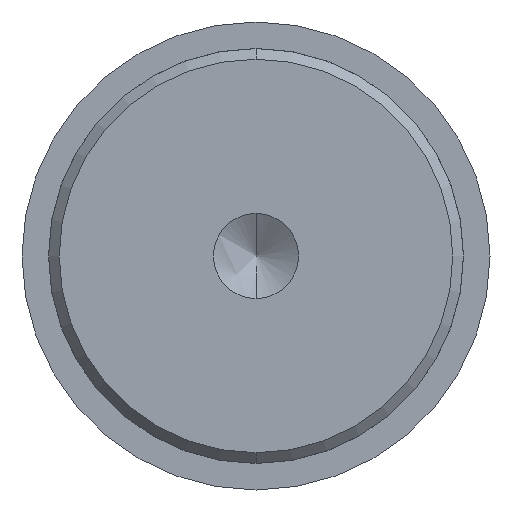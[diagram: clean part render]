
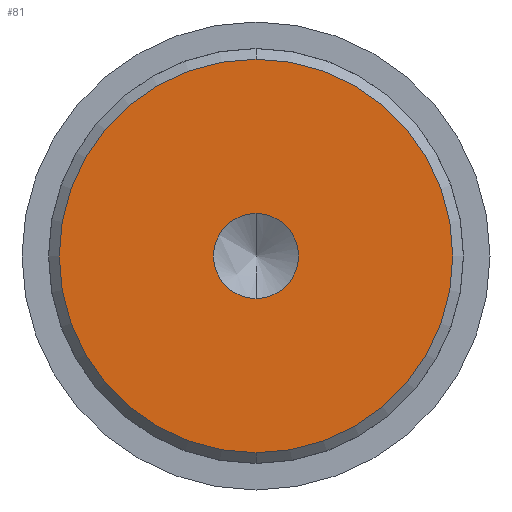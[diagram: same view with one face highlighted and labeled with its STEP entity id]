
A CAD part, left-side view. The second image highlights one B-rep face of the part: STEP entity #81.
In plain terms, the highlighted free-form (B-spline) face has degree [1, 1] with [2, 2] control points.
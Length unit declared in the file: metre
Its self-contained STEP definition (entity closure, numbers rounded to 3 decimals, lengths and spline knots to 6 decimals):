
#81 = ADVANCED_FACE( '', ( #116, #117 ), #118, .T. );
#116 = FACE_BOUND( '', #186, .T. );
#117 = FACE_OUTER_BOUND( '', #187, .T. );
#118 = B_SPLINE_SURFACE_WITH_KNOTS( '', 1, 1, ( ( #188, #189 ), ( #190, #191 ) ), .UNSPECIFIED., .F., .F., .F., ( 2, 2 ), ( 2, 2 ), ( 0., 1. ), ( 0., 1. ), .UNSPECIFIED. );
#186 = EDGE_LOOP( '', ( #345, #346 ) );
#187 = EDGE_LOOP( '', ( #347, #348 ) );
#188 = CARTESIAN_POINT( '', ( -0.144, -0.018722, -0.018722 ) );
#189 = CARTESIAN_POINT( '', ( -0.144, 0.018722, -0.018722 ) );
#190 = CARTESIAN_POINT( '', ( -0.144, -0.018722, 0.018722 ) );
#191 = CARTESIAN_POINT( '', ( -0.144, 0.018722, 0.018722 ) );
#345 = ORIENTED_EDGE( '', *, *, #522, .T. );
#346 = ORIENTED_EDGE( '', *, *, #520, .T. );
#347 = ORIENTED_EDGE( '', *, *, #523, .T. );
#348 = ORIENTED_EDGE( '', *, *, #524, .T. );
#520 = EDGE_CURVE( '', #582, #580, #583, .T. );
#522 = EDGE_CURVE( '', #580, #582, #585, .T. );
#523 = EDGE_CURVE( '', #586, #587, #588, .F. );
#524 = EDGE_CURVE( '', #587, #586, #589, .F. );
#580 = VERTEX_POINT( '', #673 );
#582 = VERTEX_POINT( '', #676 );
#583 = CIRCLE( '', #677, 0.004 );
#585 = CIRCLE( '', #680, 0.004 );
#586 = VERTEX_POINT( '', #681 );
#587 = VERTEX_POINT( '', #682 );
#588 = CIRCLE( '', #683, 0.0185 );
#589 = CIRCLE( '', #684, 0.0185 );
#673 = CARTESIAN_POINT( '', ( -0.144, 0., -0.004 ) );
#676 = CARTESIAN_POINT( '', ( -0.144, 0., 0.004 ) );
#677 = AXIS2_PLACEMENT_3D( '', #806, #807, #808 );
#680 = AXIS2_PLACEMENT_3D( '', #810, #811, #812 );
#681 = CARTESIAN_POINT( '', ( -0.144, 0., 0.0185 ) );
#682 = CARTESIAN_POINT( '', ( -0.144, 0., -0.0185 ) );
#683 = AXIS2_PLACEMENT_3D( '', #813, #814, #815 );
#684 = AXIS2_PLACEMENT_3D( '', #816, #817, #818 );
#806 = CARTESIAN_POINT( '', ( -0.144, 0., 0. ) );
#807 = DIRECTION( '', ( 1., 0., 0. ) );
#808 = DIRECTION( '', ( 0., 0., -1. ) );
#810 = CARTESIAN_POINT( '', ( -0.144, 0., 0. ) );
#811 = DIRECTION( '', ( 1., 0., 0. ) );
#812 = DIRECTION( '', ( 0., 0., -1. ) );
#813 = CARTESIAN_POINT( '', ( -0.144, 0., 0. ) );
#814 = DIRECTION( '', ( 1., 0., 0. ) );
#815 = DIRECTION( '', ( 0., 0., -1. ) );
#816 = CARTESIAN_POINT( '', ( -0.144, 0., 0. ) );
#817 = DIRECTION( '', ( 1., 0., 0. ) );
#818 = DIRECTION( '', ( 0., 0., -1. ) );
